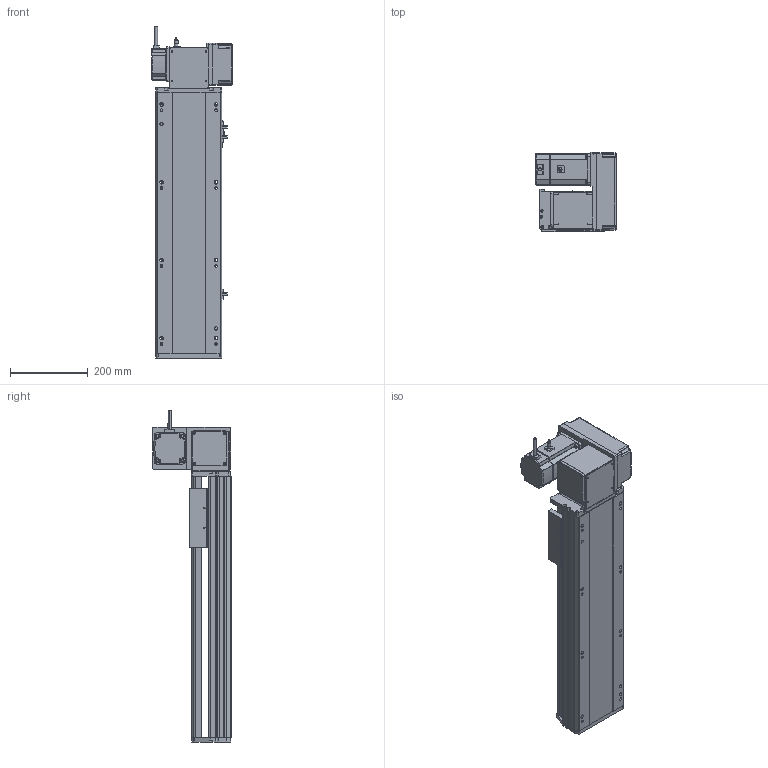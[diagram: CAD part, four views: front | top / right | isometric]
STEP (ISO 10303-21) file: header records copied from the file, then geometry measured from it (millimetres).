
FILE_DESCRIPTION (( 'STEP AP214' ), '1' );
FILE_NAME ('RTB17S-XX-400-RW-M75-C4.STEP', '2025-12-12T02:32:15', ( '' ), ( '' ), 'SwSTEP 2.0', 'SolidWorks 2018', '' );
FILE_SCHEMA (( 'AUTOMOTIVE_DESIGN' ));
Length unit declared in the file: millimetre
Products named in the file (15): RTB22S-GY-018P^RTB17S-RW-々湍釱蚾饜-750W_RTB17S-XX-XX-RW-M75-C4; RTB17S-RW-々湍釱蚾饜-750W^RTB17S-XX-XX-RW-M75-C4; RTB17S-賑釱^RTB17S-XX-XX-RW-M75-C4; RTB17S-L-001-耜醱啣^RTB17S-XX-XX-RW-M75-C4; RTB22S-GY-005P^RTB17S-RW-々湍釱蚾饜-750W_RTB17S-XX-XX-RW-M75-C4; RTB17S-XX-400-RW-M75-C4; RMP17S-L-014-T20-P75--々湍釱^RTB17S-RW-々湍釱蚾饜-750W_RTB17S-XX-XX-RW-M75-C4; RTB17S-L-004-賑釱^RTB17S-賑釱_RTB17S-XX-XX-RW-M75-C4; RTB22S-GY-017P^RTB17S-RW-々湍釱蚾饜-750W_RTB17S-XX-XX-RW-M75-C4; RTB17S-L-007奻裔^RTB17S-XX-XX-RW-M75-C4; 750W萇儂^RTB17S-XX-XX-RW-M75-C4; EE672^RTB17S-XX-XX-RW-M75-C4; RTB17-R-011菁釱^RTB17S-XX-XX-RW-M75-C4; RTB22S-GY-008-M75--萇儂啣^RTB17S-RW-々湍釱蚾饜-750W_RTB17S-XX-XX-RW-M75-C4; RTH13-BL-012覜茼え俋离^RTB17S-賑釱_RTB17S-XX-XX-RW-M75-C4
Assembly tree (17 placements, depth 3):
  RTB17S-XX-400-RW-M75-C4
    RTB17-R-011菁釱^RTB17S-XX-XX-RW-M75-C4
    EE672^RTB17S-XX-XX-RW-M75-C4  x3
    RTB17S-L-001-耜醱啣^RTB17S-XX-XX-RW-M75-C4
    RTB17S-賑釱^RTB17S-XX-XX-RW-M75-C4
      RTB17S-L-004-賑釱^RTB17S-賑釱_RTB17S-XX-XX-RW-M75-C4
      RTH13-BL-012覜茼え俋离^RTB17S-賑釱_RTB17S-XX-XX-RW-M75-C4
    RTB17S-L-007奻裔^RTB17S-XX-XX-RW-M75-C4
    750W萇儂^RTB17S-XX-XX-RW-M75-C4
    RTB17S-RW-々湍釱蚾饜-750W^RTB17S-XX-XX-RW-M75-C4
      RMP17S-L-014-T20-P75--々湍釱^RTB17S-RW-々湍釱蚾饜-750W_RTB17S-XX-XX-RW-M75-C4
      RTB22S-GY-005P^RTB17S-RW-々湍釱蚾饜-750W_RTB17S-XX-XX-RW-M75-C4
      RTB22S-GY-017P^RTB17S-RW-々湍釱蚾饜-750W_RTB17S-XX-XX-RW-M75-C4  x2
      RTB22S-GY-008-M75--萇儂啣^RTB17S-RW-々湍釱蚾饜-750W_RTB17S-XX-XX-RW-M75-C4
      RTB22S-GY-018P^RTB17S-RW-々湍釱蚾饜-750W_RTB17S-XX-XX-RW-M75-C4
Bounding box: 207.4 x 201.5 x 852.2 mm (x, y, z)
Volume: 8453064.9 mm3; surface area: 1333022.2 mm2
Topology: 17 solids, 17 shells, 2041 faces, 5620 edges, 3626 vertices
Faces by surface type: plane 964, cylinder 661, bspline 294, cone 110, sphere 8, torus 4
Entity records: 55798 total; most frequent: CARTESIAN_POINT 16284, ORIENTED_EDGE 8084, DIRECTION 7592, EDGE_CURVE 4042, AXIS2_PLACEMENT_3D 2646, VERTEX_POINT 2630, VECTOR 2300, LINE 2300
